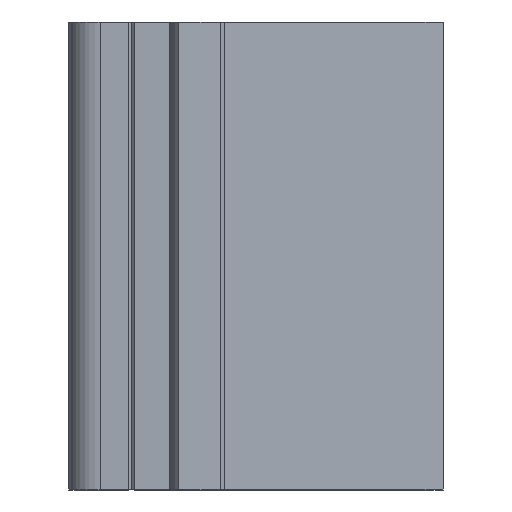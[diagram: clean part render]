
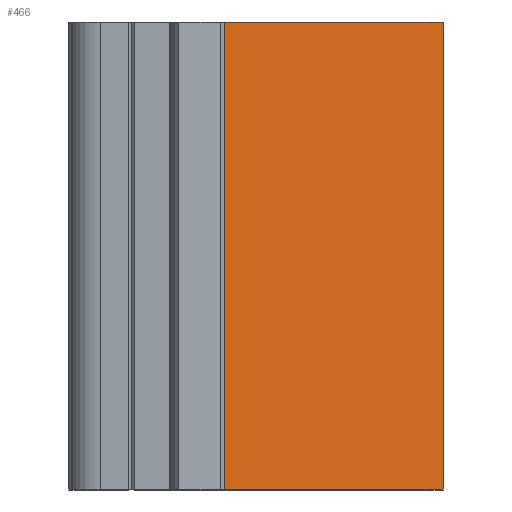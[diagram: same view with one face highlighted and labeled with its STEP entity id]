
A CAD part, top view. The second image highlights one B-rep face of the part: STEP entity #466.
In plain terms, the highlighted planar face has unit normal (0.707, 0, 0.707).
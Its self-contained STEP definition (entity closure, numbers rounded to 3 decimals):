
#26=ORIENTED_EDGE('',*,*,#158,.T.);
#27=ORIENTED_EDGE('',*,*,#159,.F.);
#28=ORIENTED_EDGE('',*,*,#160,.F.);
#29=ORIENTED_EDGE('',*,*,#161,.T.);
#158=EDGE_CURVE('',#224,#225,#268,.T.);
#159=EDGE_CURVE('',#226,#225,#269,.T.);
#160=EDGE_CURVE('',#227,#226,#270,.T.);
#161=EDGE_CURVE('',#227,#224,#271,.T.);
#224=VERTEX_POINT('',#654);
#225=VERTEX_POINT('',#655);
#226=VERTEX_POINT('',#657);
#227=VERTEX_POINT('',#659);
#268=LINE('',#653,#330);
#269=LINE('',#656,#331);
#270=LINE('',#658,#332);
#271=LINE('',#660,#333);
#330=VECTOR('',#535,1000.);
#331=VECTOR('',#536,1000.);
#332=VECTOR('',#537,1000.);
#333=VECTOR('',#538,1000.);
#392=EDGE_LOOP('',(#26,#27,#28,#29));
#418=FACE_BOUND('',#392,.T.);
#444=PLANE('',#503);
#466=ADVANCED_FACE('',(#418),#444,.F.);
#503=AXIS2_PLACEMENT_3D('',#652,#533,#534);
#533=DIRECTION('',(-0.707,0.,-0.707));
#534=DIRECTION('',(-0.707,0.,0.707));
#535=DIRECTION('',(-0.707,0.,0.707));
#536=DIRECTION('',(0.,1.,0.));
#537=DIRECTION('',(-0.707,0.,0.707));
#538=DIRECTION('',(0.,1.,0.));
#652=CARTESIAN_POINT('',(0.,-37.5,0.));
#653=CARTESIAN_POINT('',(0.,37.5,0.));
#654=CARTESIAN_POINT('',(0.,37.5,0.));
#655=CARTESIAN_POINT('',(-35.002,37.5,35.002));
#656=CARTESIAN_POINT('',(-35.002,-37.5,35.002));
#657=CARTESIAN_POINT('',(-35.002,-37.5,35.002));
#658=CARTESIAN_POINT('',(0.,-37.5,0.));
#659=CARTESIAN_POINT('',(0.,-37.5,0.));
#660=CARTESIAN_POINT('',(0.,-37.5,0.));
